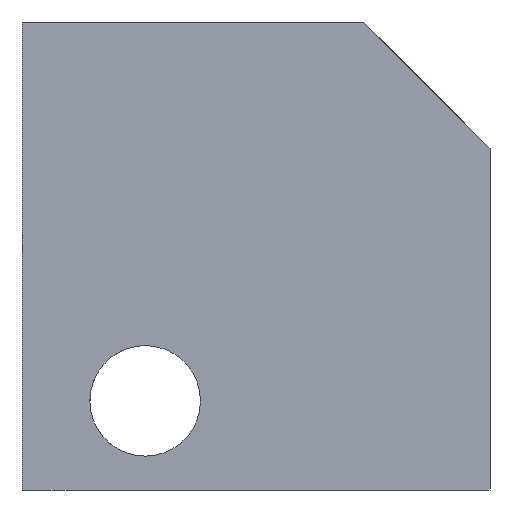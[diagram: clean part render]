
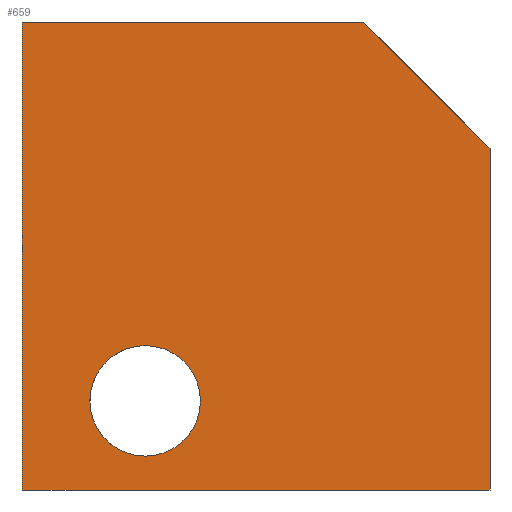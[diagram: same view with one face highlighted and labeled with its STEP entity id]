
A CAD part, left-side view. The second image highlights one B-rep face of the part: STEP entity #659.
In plain terms, the highlighted planar face has unit normal (-1, 0, 0).
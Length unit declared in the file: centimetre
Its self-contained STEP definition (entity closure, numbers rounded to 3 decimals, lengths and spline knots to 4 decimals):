
#34 = LINE ( 'NONE', #637, #382 ) ;
#61 = VERTEX_POINT ( 'NONE', #278 ) ;
#67 = DIRECTION ( 'NONE',  ( 1., 0., 0. ) ) ;
#71 = ORIENTED_EDGE ( 'NONE', *, *, #857, .T. ) ;
#75 = CARTESIAN_POINT ( 'NONE',  ( 0., 1000., 1000. ) ) ;
#115 = DIRECTION ( 'NONE',  ( 0., -1., 0. ) ) ;
#130 = CIRCLE ( 'NONE', #815, 118.1068 ) ;
#144 = EDGE_CURVE ( 'NONE', #200, #811, #405, .T. ) ;
#151 = FACE_OUTER_BOUND ( 'NONE', #206, .T. ) ;
#153 = EDGE_LOOP ( 'NONE', ( #949, #657 ) ) ;
#164 = EDGE_CURVE ( 'NONE', #507, #811, #912, .T. ) ;
#169 = CARTESIAN_POINT ( 'NONE',  ( 0., 269.6673, 1000. ) ) ;
#193 = EDGE_CURVE ( 'NONE', #658, #61, #523, .T. ) ;
#200 = VERTEX_POINT ( 'NONE', #233 ) ;
#206 = EDGE_LOOP ( 'NONE', ( #675, #515, #594, #71, #761 ) ) ;
#213 = DIRECTION ( 'NONE',  ( 0., 0., -1. ) ) ;
#221 = DIRECTION ( 'NONE',  ( 0., -1., 0. ) ) ;
#233 = CARTESIAN_POINT ( 'NONE',  ( 0., 0., 730.3327 ) ) ;
#234 = VERTEX_POINT ( 'NONE', #75 ) ;
#278 = CARTESIAN_POINT ( 'NONE',  ( 0., 736.8726, 308.4971 ) ) ;
#301 = DIRECTION ( 'NONE',  ( 1., 0., 0. ) ) ;
#339 = AXIS2_PLACEMENT_3D ( 'NONE', #590, #301, #448 ) ;
#377 = PLANE ( 'NONE',  #970 ) ;
#381 = DIRECTION ( 'NONE',  ( 1., 0., 0. ) ) ;
#382 = VECTOR ( 'NONE', #115, 100. ) ;
#387 = EDGE_CURVE ( 'NONE', #234, #561, #34, .T. ) ;
#405 = LINE ( 'NONE', #777, #677 ) ;
#448 = DIRECTION ( 'NONE',  ( 0., 0., -1. ) ) ;
#462 = DIRECTION ( 'NONE',  ( 0., 0., -1. ) ) ;
#463 = CARTESIAN_POINT ( 'NONE',  ( 0., 0., 0. ) ) ;
#466 = LINE ( 'NONE', #935, #747 ) ;
#469 = LINE ( 'NONE', #706, #878 ) ;
#507 = VERTEX_POINT ( 'NONE', #705 ) ;
#515 = ORIENTED_EDGE ( 'NONE', *, *, #527, .T. ) ;
#516 = CARTESIAN_POINT ( 'NONE',  ( 0., 1000., 1000. ) ) ;
#523 = CIRCLE ( 'NONE', #339, 118.1068 ) ;
#527 = EDGE_CURVE ( 'NONE', #200, #561, #466, .T. ) ;
#561 = VERTEX_POINT ( 'NONE', #169 ) ;
#590 = CARTESIAN_POINT ( 'NONE',  ( 0., 736.8726, 190.3903 ) ) ;
#592 = DIRECTION ( 'NONE',  ( 0., 0., -1. ) ) ;
#594 = ORIENTED_EDGE ( 'NONE', *, *, #387, .F. ) ;
#621 = VECTOR ( 'NONE', #221, 100. ) ;
#637 = CARTESIAN_POINT ( 'NONE',  ( 0., 1000., 1000. ) ) ;
#657 = ORIENTED_EDGE ( 'NONE', *, *, #757, .T. ) ;
#658 = VERTEX_POINT ( 'NONE', #756 ) ;
#659 = ADVANCED_FACE ( 'NONE', ( #818, #151 ), #377, .F. ) ;
#675 = ORIENTED_EDGE ( 'NONE', *, *, #144, .F. ) ;
#677 = VECTOR ( 'NONE', #462, 100. ) ;
#705 = CARTESIAN_POINT ( 'NONE',  ( 0., 1000., 0. ) ) ;
#706 = CARTESIAN_POINT ( 'NONE',  ( 0., 1000., 1000. ) ) ;
#722 = DIRECTION ( 'NONE',  ( 0., 0.707, 0.707 ) ) ;
#747 = VECTOR ( 'NONE', #722, 100. ) ;
#756 = CARTESIAN_POINT ( 'NONE',  ( 0., 736.8726, 72.2835 ) ) ;
#757 = EDGE_CURVE ( 'NONE', #61, #658, #130, .T. ) ;
#761 = ORIENTED_EDGE ( 'NONE', *, *, #164, .T. ) ;
#777 = CARTESIAN_POINT ( 'NONE',  ( 0., 0., 1000. ) ) ;
#811 = VERTEX_POINT ( 'NONE', #463 ) ;
#815 = AXIS2_PLACEMENT_3D ( 'NONE', #972, #67, #592 ) ;
#818 = FACE_BOUND ( 'NONE', #153, .T. ) ;
#836 = CARTESIAN_POINT ( 'NONE',  ( 0., 1000., 0. ) ) ;
#857 = EDGE_CURVE ( 'NONE', #234, #507, #469, .T. ) ;
#878 = VECTOR ( 'NONE', #922, 100. ) ;
#912 = LINE ( 'NONE', #836, #621 ) ;
#922 = DIRECTION ( 'NONE',  ( 0., 0., -1. ) ) ;
#935 = CARTESIAN_POINT ( 'NONE',  ( 0., 269.6673, 1000. ) ) ;
#949 = ORIENTED_EDGE ( 'NONE', *, *, #193, .T. ) ;
#970 = AXIS2_PLACEMENT_3D ( 'NONE', #516, #381, #213 ) ;
#972 = CARTESIAN_POINT ( 'NONE',  ( 0., 736.8726, 190.3903 ) ) ;
